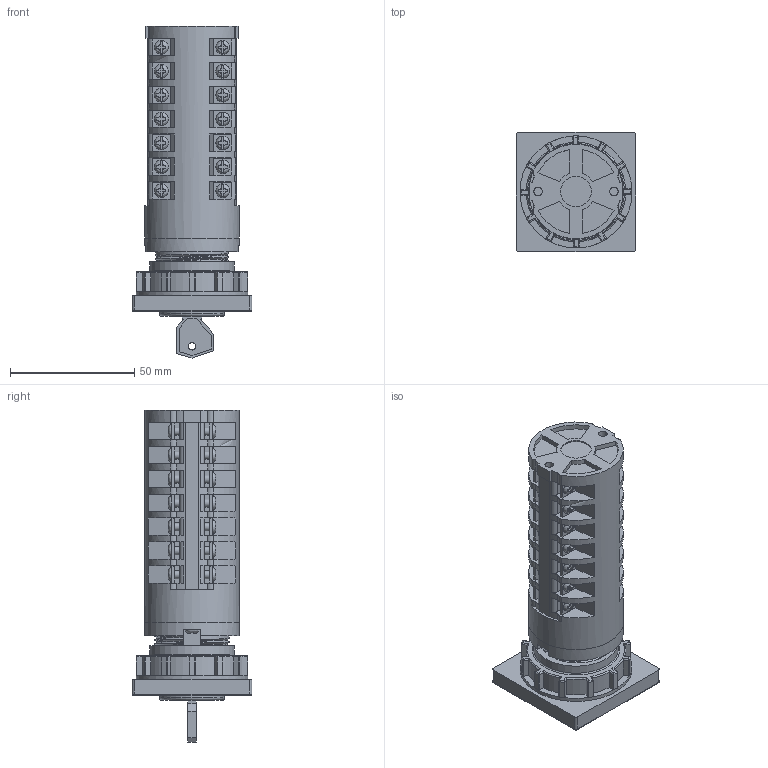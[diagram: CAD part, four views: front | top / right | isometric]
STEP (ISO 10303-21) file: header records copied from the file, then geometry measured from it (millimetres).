
FILE_DESCRIPTION(/* description */ (''),/* implementation_level */ '2;1');
FILE_NAME(/* name */ '4G10-U_wykonanie_S30_7_korpusow.stp',/* time_stamp */ '2021-07-21T08:59:46+02:00',/* author */ (''),/* organization */ (''),/* preprocessor_version */ 'ST-DEVELOPER v18.1',/* originating_system */ 'SIEMENS PLM Software NX 1965',/* authorisation */ '');
FILE_SCHEMA (('AUTOMOTIVE_DESIGN { 1 0 10303 214 3 1 1 1 }'));
Length unit declared in the file: millimetre
Products named in the file (1): 4G10-U_wykonanie_S30_7_korpusow_stp
Bounding box: 48 x 48 x 133.42 mm (x, y, z)
Volume: 121612.2 mm3; surface area: 32850.2 mm2
Topology: 1 solids, 3 shells, 1233 faces, 3348 edges, 2170 vertices
Faces by surface type: plane 913, cylinder 237, bspline 67, torus 16
Full cylindrical faces by diameter (mm): 3 x1, 3.2 x30, 3.3 x2, 3.4 x2, 12.3 x1, 15 x1, 26 x1, 34 x1, 38 x2, 45 x1
Entity records: 44592 total; most frequent: CARTESIAN_POINT 14298, ORIENTED_EDGE 6432, DIRECTION 6010, EDGE_CURVE 3216, VERTEX_POINT 2136, AXIS2_PLACEMENT_3D 2028, LINE 1954, VECTOR 1954
